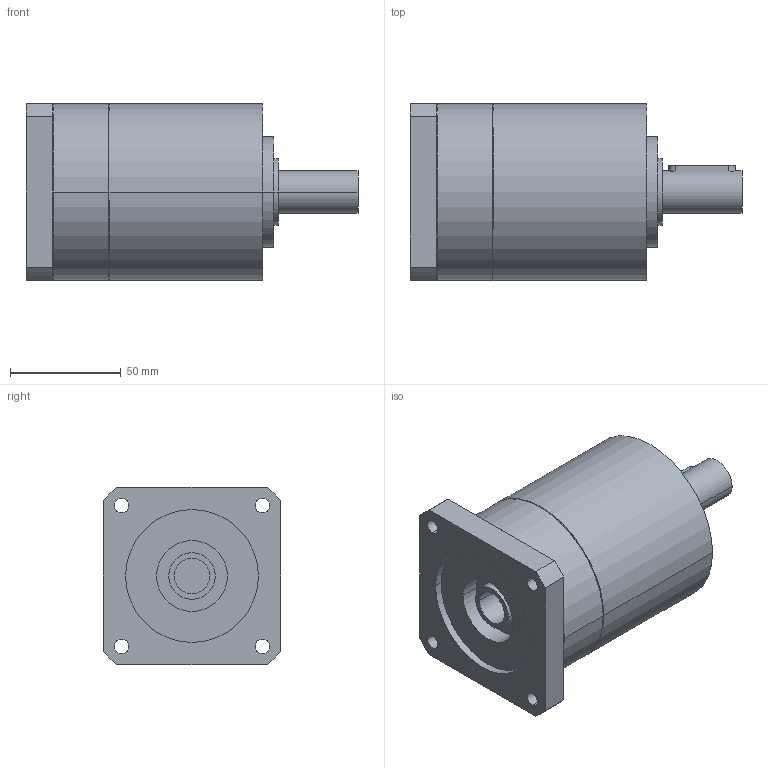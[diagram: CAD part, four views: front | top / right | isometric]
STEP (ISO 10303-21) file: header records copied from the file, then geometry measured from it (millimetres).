
FILE_DESCRIPTION(('CoCreate Modeling STEP Export'),'2;1');
FILE_NAME('GPR100_ig-3-4-5-6_19_B14_16_P19.stp','2014-08-26T10:08:18',(''),(''),'CoCreate Modeling STEP processor for AP214 (Solid Model)','CoCreate Modeling 16.00C 25-Feb-2009 (C) Parametric Technology GmbH','');
FILE_SCHEMA(('AUTOMOTIVE_DESIGN { 1 0 10303 214 1 1 1 1 }'));
Length unit declared in the file: millimetre
Products named in the file (2): GPR100_ig-3-4-5-6_19_B14_16_P19
Assembly tree (1 placements, depth 2):
  GPR100_ig-3-4-5-6_19_B14_16_P19
    GPR100_ig-3-4-5-6_19_B14_16_P19
Bounding box: 150 x 80 x 80 mm (x, y, z)
Volume: 548346.3 mm3; surface area: 50061.2 mm2
Topology: 1 solids, 1 shells, 82 faces, 221 edges, 157 vertices
Faces by surface type: cylinder 50, plane 26, cone 6
Entity records: 2244 total; most frequent: ORIENTED_EDGE 438, CARTESIAN_POINT 409, DIRECTION 302, EDGE_CURVE 219, VERTEX_POINT 157, AXIS2_PLACEMENT_3D 114, EDGE_LOOP 108, FACE_OUTER_BOUND 82
